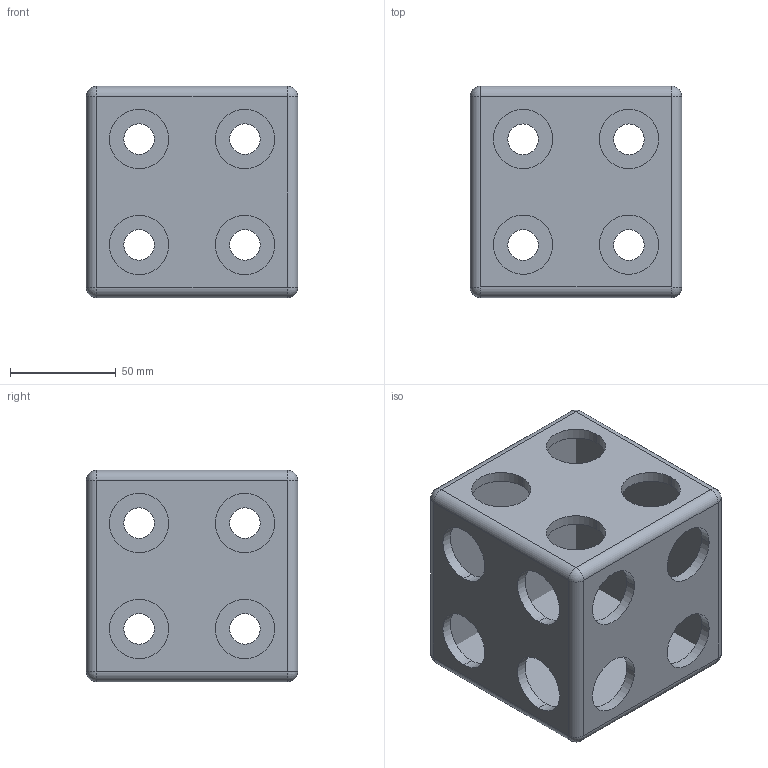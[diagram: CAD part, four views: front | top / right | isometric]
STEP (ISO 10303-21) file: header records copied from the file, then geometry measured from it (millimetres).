
FILE_DESCRIPTION (( 'STEP AP214' ), '1' );
FILE_NAME ('100100-3.STEP', '2020-06-24T12:21:45', ( '' ), ( '' ), 'SwSTEP 2.0', 'SolidWorks 2018', '' );
FILE_SCHEMA (( 'AUTOMOTIVE_DESIGN' ));
Length unit declared in the file: millimetre
Products named in the file (3): 100100-3.02; 100100-3.01; 100100-3
Assembly tree (6 placements, depth 2):
  100100-3
    100100-3.01  x3
    100100-3.02  x3
Bounding box: 100 x 100 x 100 mm (x, y, z)
Volume: 229526.5 mm3; surface area: 112820.8 mm2
Topology: 6 solids, 6 shells, 114 faces, 306 edges, 180 vertices
Faces by surface type: cylinder 78, sphere 24, plane 12
Entity records: 1332 total; most frequent: DIRECTION 248, CARTESIAN_POINT 201, ORIENTED_EDGE 188, AXIS2_PLACEMENT_3D 107, EDGE_CURVE 94, CIRCLE 60, VERTEX_POINT 60, EDGE_LOOP 56
